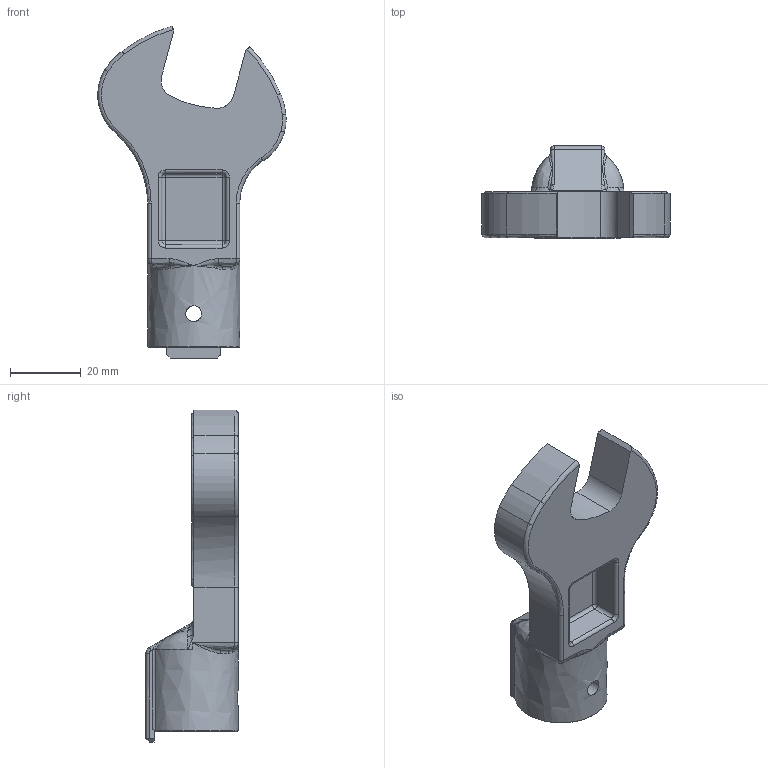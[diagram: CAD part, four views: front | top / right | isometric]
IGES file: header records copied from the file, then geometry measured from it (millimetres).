
Global section: file name: SH19DX21; native system: Autodesk Inventor 2016; preprocessor: unknown; author: Q600; date: 20151029.180154; units: millimetre
Bounding box: 53.06 x 26 x 93.58 mm (x, y, z)
Volume: 29606.9 mm3; surface area: 11268.4 mm2
Topology: 1 solids, 1 shells, 137 faces, 359 edges, 215 vertices
Faces by surface type: bspline 137
